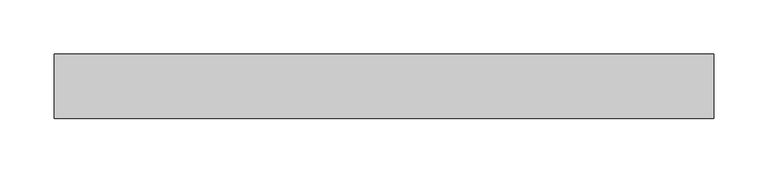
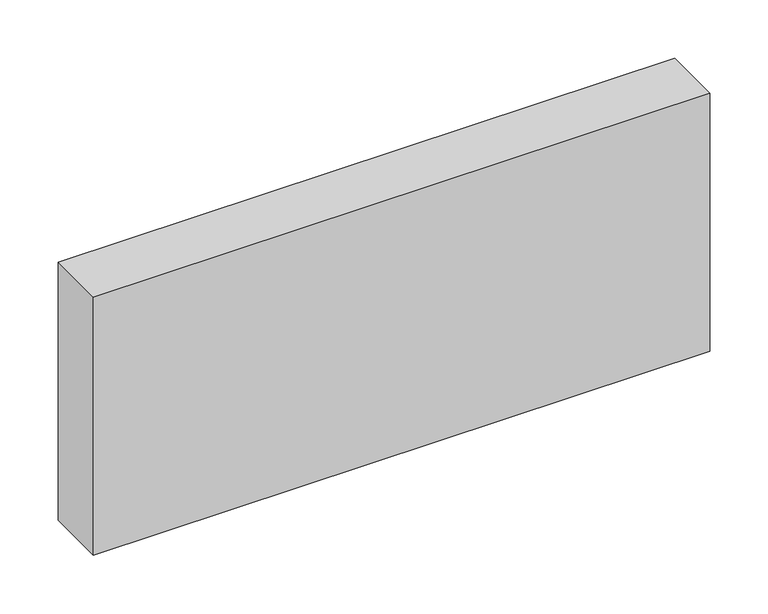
"""IFC4 building model written with IfcOpenShell, lengths in millimetres: plate geometry, Системная панель : Алюкобонд серый."""

from ifc_helpers import new_model, si_unit, origin, origin_with_axes, place, context, project, spatial, polyline, outline, extrude, source, transform, mapped, element, save


def plate_88d705f7(model_context):
    return source(origin(), model_context, "Body", "SweptSolid", [
        extrude(outline(polyline([(305.0, -49.5), (-305.0, -49.5), (-305.0, 10.5), (305.0, 10.5), (305.0, -49.5)])), origin_with_axes(), (0.0, 0.0, 1.0), 270.0),
    ])


if __name__ == "__main__":
    model = new_model("IFC4")
    model_context = context("Model", 3, world=origin())
    ifc_project = project(units=[si_unit("LENGTHUNIT", "METRE", prefix="MILLI")], contexts=[model_context])
    site = spatial("IfcSite", under=ifc_project)
    building = spatial("IfcBuilding", under=site)
    placement = place(None, origin())
    plate_shape = plate_88d705f7(model_context)
    element("IfcPlate", 1, ObjectType="Системная панель : Алюкобонд серый", at=placement, inside=building, context=model_context, shape_type="MappedRepresentation", body=[
        mapped(plate_shape, transform((0.0, 0.0, 0.0), x_axis=(1.0, 0.0, 0.0), y_axis=(0.0, 1.0, 0.0), z_axis=(0.0, 0.0, 1.0))),
    ])
    save(model, "model.ifc")
